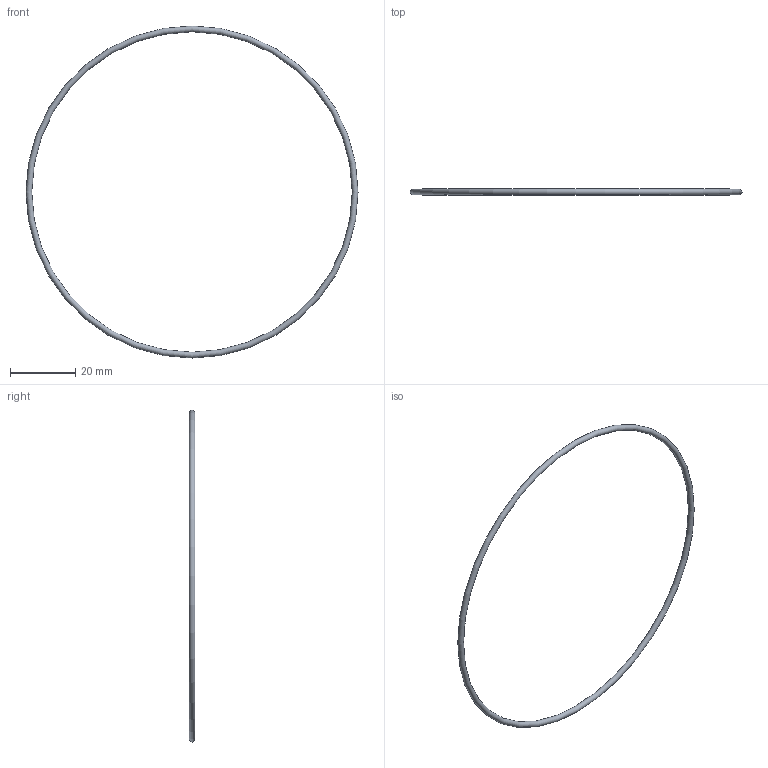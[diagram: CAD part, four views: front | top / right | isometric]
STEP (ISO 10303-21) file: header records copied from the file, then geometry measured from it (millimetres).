
FILE_DESCRIPTION( ( 'STEP AP203' ), '1' );
FILE_NAME( 'C:/Temp/Ganter_Step_05_03_2020/data/3_5/or638/O-Ring OR638-98.05-1.78-70.stp', '2020-03-12T13:44:20', ( 'License CC BY-ND 4.0' ), ( 'CADENAS' ), ' ', 'PARTsolutions', ' ' );
FILE_SCHEMA( ( 'CONFIG_CONTROL_DESIGN' ) );
Length unit declared in the file: millimetre
Products named in the file (1): _O-Ring OR638-98.05-1.78-70
Bounding box: 101.61 x 1.78 x 101.61 mm (x, y, z)
Volume: 780.4 mm3; surface area: 1753.8 mm2
Topology: 1 solids, 1 shells, 1 faces, 2 edges, 1 vertices
Faces by surface type: torus 1
Entity records: 62 total; most frequent: CC_DESIGN_PERSON_AND_ORGANIZATION_ASSIGNMENT 5, PERSON_AND_ORGANIZATION_ROLE 4, DIRECTION 4, CARTESIAN_POINT 3, DATE_TIME_ROLE 2, CC_DESIGN_DATE_AND_TIME_ASSIGNMENT 2, AXIS2_PLACEMENT_3D 2, DIMENSIONAL_EXPONENTS 2
